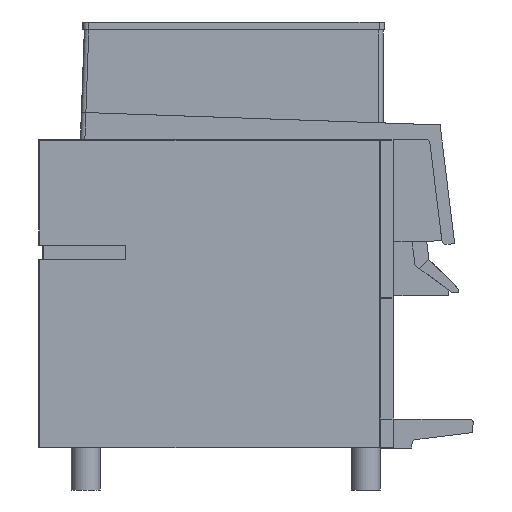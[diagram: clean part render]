
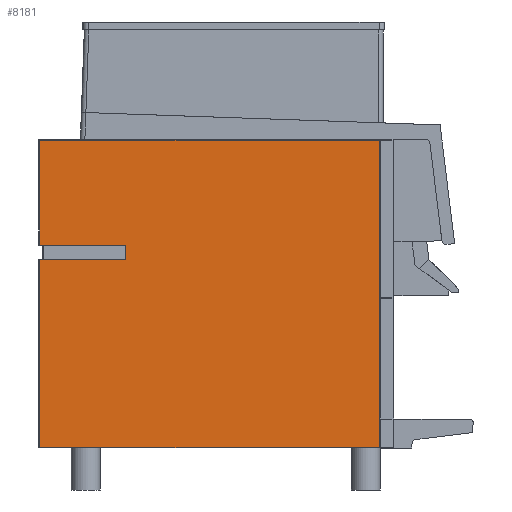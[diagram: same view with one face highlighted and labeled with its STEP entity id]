
A CAD part, left-side view. The second image highlights one B-rep face of the part: STEP entity #8181.
In plain terms, the highlighted planar face has unit normal (-1, 0, 0).
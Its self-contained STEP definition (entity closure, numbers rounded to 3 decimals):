
#433=LINE('',#10988,#1105);
#639=LINE('',#11520,#1311);
#640=LINE('',#11522,#1312);
#641=LINE('',#11524,#1313);
#642=LINE('',#11526,#1314);
#643=LINE('',#11528,#1315);
#644=LINE('',#11530,#1316);
#645=LINE('',#11532,#1317);
#646=LINE('',#11534,#1318);
#647=LINE('',#11536,#1319);
#1105=VECTOR('',#9191,1000.);
#1311=VECTOR('',#9617,1000.);
#1312=VECTOR('',#9618,1000.);
#1313=VECTOR('',#9619,1000.);
#1314=VECTOR('',#9620,1000.);
#1315=VECTOR('',#9621,1000.);
#1316=VECTOR('',#9622,1000.);
#1317=VECTOR('',#9623,1000.);
#1318=VECTOR('',#9624,1000.);
#1319=VECTOR('',#9625,1000.);
#2159=ORIENTED_EDGE('',*,*,#3560,.F.);
#2160=ORIENTED_EDGE('',*,*,#3830,.T.);
#2161=ORIENTED_EDGE('',*,*,#3831,.T.);
#2162=ORIENTED_EDGE('',*,*,#3832,.T.);
#2163=ORIENTED_EDGE('',*,*,#3833,.F.);
#2164=ORIENTED_EDGE('',*,*,#3834,.F.);
#2165=ORIENTED_EDGE('',*,*,#3835,.F.);
#2166=ORIENTED_EDGE('',*,*,#3836,.T.);
#2167=ORIENTED_EDGE('',*,*,#3837,.T.);
#2168=ORIENTED_EDGE('',*,*,#3838,.T.);
#3560=EDGE_CURVE('',#4419,#4420,#433,.T.);
#3830=EDGE_CURVE('',#4419,#4636,#639,.T.);
#3831=EDGE_CURVE('',#4636,#4637,#640,.F.);
#3832=EDGE_CURVE('',#4637,#4638,#641,.F.);
#3833=EDGE_CURVE('',#4639,#4638,#642,.T.);
#3834=EDGE_CURVE('',#4640,#4639,#643,.T.);
#3835=EDGE_CURVE('',#4641,#4640,#644,.T.);
#3836=EDGE_CURVE('',#4641,#4642,#645,.T.);
#3837=EDGE_CURVE('',#4642,#4643,#646,.T.);
#3838=EDGE_CURVE('',#4643,#4420,#647,.F.);
#4419=VERTEX_POINT('',#10987);
#4420=VERTEX_POINT('',#10989);
#4636=VERTEX_POINT('',#11521);
#4637=VERTEX_POINT('',#11523);
#4638=VERTEX_POINT('',#11525);
#4639=VERTEX_POINT('',#11527);
#4640=VERTEX_POINT('',#11529);
#4641=VERTEX_POINT('',#11531);
#4642=VERTEX_POINT('',#11533);
#4643=VERTEX_POINT('',#11535);
#4970=EDGE_LOOP('',(#2159,#2160,#2161,#2162,#2163,#2164,#2165,#2166,#2167,
#2168));
#5324=FACE_BOUND('',#4970,.T.);
#5654=PLANE('',#8615);
#8181=ADVANCED_FACE('',(#5324),#5654,.F.);
#8615=AXIS2_PLACEMENT_3D('',#11519,#9615,#9616);
#9191=DIRECTION('',(0.,1.,0.));
#9615=DIRECTION('',(1.,0.,0.));
#9616=DIRECTION('',(0.,1.,0.));
#9617=DIRECTION('',(0.,0.,1.));
#9618=DIRECTION('',(0.,-1.,0.));
#9619=DIRECTION('',(0.,0.,1.));
#9620=DIRECTION('',(0.,1.,0.));
#9621=DIRECTION('',(0.,1.,0.));
#9622=DIRECTION('',(0.,0.,1.));
#9623=DIRECTION('',(0.,1.,0.));
#9624=DIRECTION('',(0.,1.,0.));
#9625=DIRECTION('',(0.,0.,1.));
#10987=CARTESIAN_POINT('',(-114.,-470.,0.));
#10988=CARTESIAN_POINT('',(-114.,-490.,0.));
#10989=CARTESIAN_POINT('',(-114.,-1.2,0.));
#11519=CARTESIAN_POINT('',(-114.,0.,0.));
#11520=CARTESIAN_POINT('',(-114.,-470.,420.5));
#11521=CARTESIAN_POINT('',(-114.,-470.,424.8));
#11522=CARTESIAN_POINT('',(-114.,0.,424.8));
#11523=CARTESIAN_POINT('',(-114.,-1.2,424.8));
#11524=CARTESIAN_POINT('',(-114.,-1.2,0.));
#11525=CARTESIAN_POINT('',(-114.,-1.2,280.));
#11526=CARTESIAN_POINT('',(-114.,-5.,280.));
#11527=CARTESIAN_POINT('',(-114.,-5.133,280.));
#11528=CARTESIAN_POINT('',(-114.,-120.,280.));
#11529=CARTESIAN_POINT('',(-114.,-120.,280.));
#11530=CARTESIAN_POINT('',(-114.,-120.,260.));
#11531=CARTESIAN_POINT('',(-114.,-120.,260.));
#11532=CARTESIAN_POINT('',(-114.,-120.,260.));
#11533=CARTESIAN_POINT('',(-114.,-5.133,260.));
#11534=CARTESIAN_POINT('',(-114.,-5.,260.));
#11535=CARTESIAN_POINT('',(-114.,-1.2,260.));
#11536=CARTESIAN_POINT('',(-114.,-1.2,0.));
